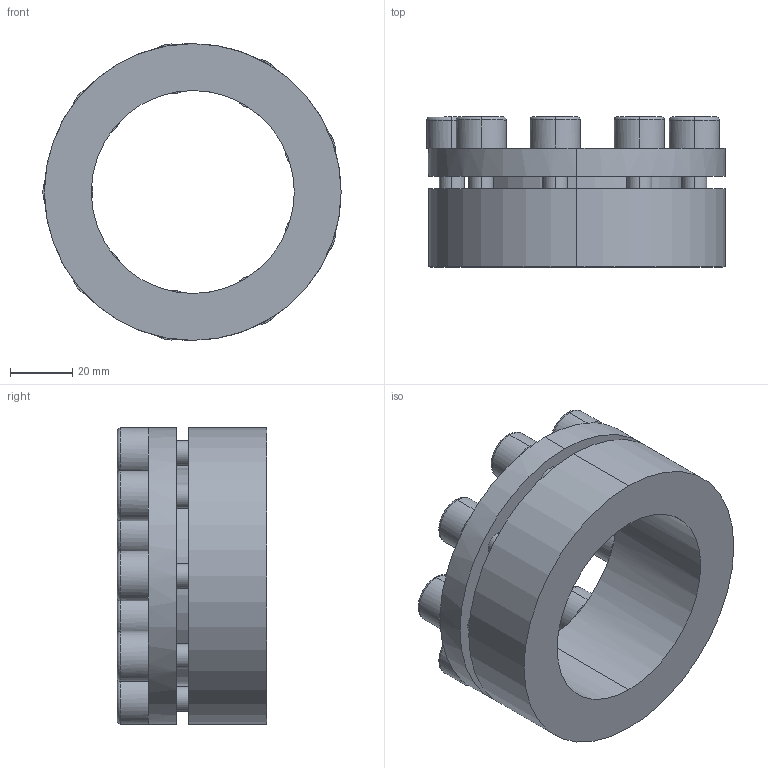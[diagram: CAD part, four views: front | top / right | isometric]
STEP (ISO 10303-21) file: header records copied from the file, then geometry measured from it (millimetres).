
FILE_DESCRIPTION (( 'STEP AP203' ), '1' );
FILE_NAME ('PL-H1 65-95.STEP', '2021-10-23T00:55:06', ( '' ), ( '' ), 'SwSTEP 2.0', 'SolidWorks 2018', '' );
FILE_SCHEMA (( 'CONFIG_CONTROL_DESIGN' ));
Length unit declared in the file: millimetre
Products named in the file (1): PL-H1 65-95
Bounding box: 95.5 x 48 x 95 mm (x, y, z)
Volume: 147177.5 mm3; surface area: 38651.6 mm2
Topology: 1 solids, 1 shells, 164 faces, 402 edges, 250 vertices
Faces by surface type: plane 102, cylinder 44, torus 18
Entity records: 4967 total; most frequent: DIRECTION 928, CARTESIAN_POINT 817, ORIENTED_EDGE 804, EDGE_CURVE 402, AXIS2_PLACEMENT_3D 361, VERTEX_POINT 250, VECTOR 206, LINE 206
